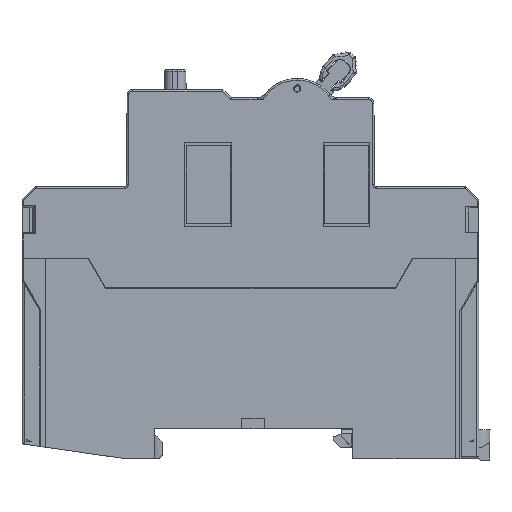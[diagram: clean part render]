
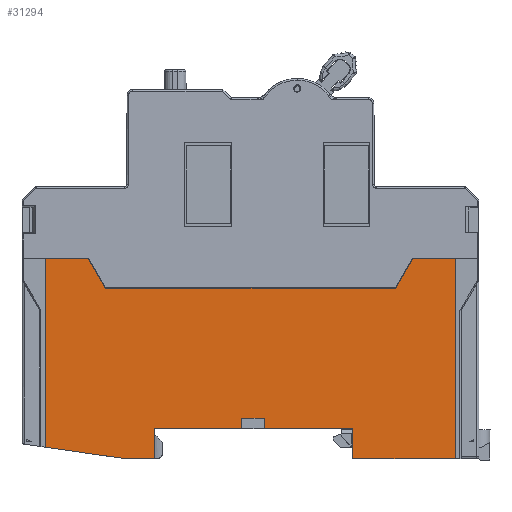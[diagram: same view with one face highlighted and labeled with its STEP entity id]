
A CAD part, left-side view. The second image highlights one B-rep face of the part: STEP entity #31294.
In plain terms, the highlighted planar face has unit normal (-1, 0, -0.003).
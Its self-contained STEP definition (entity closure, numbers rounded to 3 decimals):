
#430 = VERTEX_POINT ( 'NONE', #25608 ) ;
#446 = CARTESIAN_POINT ( 'NONE',  ( -17.81, 37.2, -3.351 ) ) ;
#522 = DIRECTION ( 'NONE',  ( 0., -1., 0. ) ) ;
#702 = DIRECTION ( 'NONE',  ( 0.003, 0., -1. ) ) ;
#803 = EDGE_CURVE ( 'NONE', #1604, #30242, #3737, .T. ) ;
#1604 = VERTEX_POINT ( 'NONE', #27402 ) ;
#1630 = DIRECTION ( 'NONE',  ( 0., 1., 0. ) ) ;
#2237 = DIRECTION ( 'NONE',  ( 0., -1., 0. ) ) ;
#2311 = ORIENTED_EDGE ( 'NONE', *, *, #10362, .T. ) ;
#2698 = VERTEX_POINT ( 'NONE', #446 ) ;
#2858 = LINE ( 'NONE', #34061, #27433 ) ;
#3737 = LINE ( 'NONE', #6586, #10572 ) ;
#3806 = DIRECTION ( 'NONE',  ( -0.003, 0.005, 1. ) ) ;
#3987 = DIRECTION ( 'NONE',  ( 0., -0.99, -0.142 ) ) ;
#4095 = ORIENTED_EDGE ( 'NONE', *, *, #31018, .T. ) ;
#4277 = VECTOR ( 'NONE', #40005, 1000. ) ;
#4990 = EDGE_CURVE ( 'NONE', #34829, #6757, #17106, .T. ) ;
#5139 = CARTESIAN_POINT ( 'NONE',  ( -17.805, -18.578, -5.4 ) ) ;
#5221 = LINE ( 'NONE', #23220, #29796 ) ;
#5395 = LINE ( 'NONE', #29439, #23168 ) ;
#5665 = VERTEX_POINT ( 'NONE', #36476 ) ;
#5940 = VERTEX_POINT ( 'NONE', #38209 ) ;
#6196 = ORIENTED_EDGE ( 'NONE', *, *, #42351, .T. ) ;
#6586 = CARTESIAN_POINT ( 'NONE',  ( -17.824, -2.5, 1.881 ) ) ;
#6709 = DIRECTION ( 'NONE',  ( 0., 1., 0. ) ) ;
#6757 = VERTEX_POINT ( 'NONE', #15889 ) ;
#7190 = CARTESIAN_POINT ( 'NONE',  ( -17.805, 22.95, -5.4 ) ) ;
#7204 = FACE_OUTER_BOUND ( 'NONE', #27370, .T. ) ;
#7260 = PLANE ( 'NONE',  #9123 ) ;
#7347 = VECTOR ( 'NONE', #39514, 1000. ) ;
#7767 = LINE ( 'NONE', #32516, #25530 ) ;
#7898 = LINE ( 'NONE', #33646, #42231 ) ;
#8456 = DIRECTION ( 'NONE',  ( 0.002, 0.5, -0.866 ) ) ;
#8607 = ORIENTED_EDGE ( 'NONE', *, *, #21251, .T. ) ;
#9008 = VERTEX_POINT ( 'NONE', #30888 ) ;
#9123 = AXIS2_PLACEMENT_3D ( 'NONE', #27281, #20669, #702 ) ;
#9462 = DIRECTION ( 'NONE',  ( 0.002, -0.5, -0.866 ) ) ;
#9763 = EDGE_CURVE ( 'NONE', #30258, #9008, #27358, .T. ) ;
#9834 = CARTESIAN_POINT ( 'NONE',  ( -17.9, 29.5, 31. ) ) ;
#10309 = CARTESIAN_POINT ( 'NONE',  ( -17.824, -2.5, 1.89 ) ) ;
#10362 = EDGE_CURVE ( 'NONE', #6757, #2698, #30918, .T. ) ;
#10474 = VERTEX_POINT ( 'NONE', #37069 ) ;
#10535 = VECTOR ( 'NONE', #11445, 1000. ) ;
#10572 = VECTOR ( 'NONE', #3806, 1000. ) ;
#11173 = EDGE_CURVE ( 'NONE', #30242, #26102, #19391, .T. ) ;
#11404 = ORIENTED_EDGE ( 'NONE', *, *, #4990, .T. ) ;
#11445 = DIRECTION ( 'NONE',  ( 0., 1., 0. ) ) ;
#11682 = DIRECTION ( 'NONE',  ( 0.003, 0.005, -1. ) ) ;
#11844 = ORIENTED_EDGE ( 'NONE', *, *, #33530, .F. ) ;
#13515 = CARTESIAN_POINT ( 'NONE',  ( -17.805, -37.2, -5.4 ) ) ;
#15049 = EDGE_CURVE ( 'NONE', #23777, #17072, #38023, .T. ) ;
#15504 = VECTOR ( 'NONE', #26516, 1000. ) ;
#15889 = CARTESIAN_POINT ( 'NONE',  ( -17.9, 37.2, 31. ) ) ;
#16289 = CARTESIAN_POINT ( 'NONE',  ( -17.819, -37.2, -0.047 ) ) ;
#16505 = EDGE_CURVE ( 'NONE', #1604, #430, #30107, .T. ) ;
#16822 = ORIENTED_EDGE ( 'NONE', *, *, #803, .F. ) ;
#17072 = VERTEX_POINT ( 'NONE', #38054 ) ;
#17106 = LINE ( 'NONE', #24044, #33745 ) ;
#18013 = LINE ( 'NONE', #32639, #25824 ) ;
#19046 = CARTESIAN_POINT ( 'NONE',  ( -17.824, 1.6, 1.89 ) ) ;
#19391 = LINE ( 'NONE', #19046, #10535 ) ;
#19541 = EDGE_CURVE ( 'NONE', #430, #23318, #31489, .T. ) ;
#19634 = CARTESIAN_POINT ( 'NONE',  ( -17.901, -18.386, 31.304 ) ) ;
#19801 = CARTESIAN_POINT ( 'NONE',  ( -17.9, 17.45, 31. ) ) ;
#20275 = ORIENTED_EDGE ( 'NONE', *, *, #19541, .T. ) ;
#20299 = VECTOR ( 'NONE', #1630, 1000. ) ;
#20669 = DIRECTION ( 'NONE',  ( -1., 0., -0.003 ) ) ;
#20755 = ORIENTED_EDGE ( 'NONE', *, *, #22320, .T. ) ;
#21251 = EDGE_CURVE ( 'NONE', #36916, #10474, #5221, .T. ) ;
#22005 = CARTESIAN_POINT ( 'NONE',  ( -17.886, -26.325, 25.5 ) ) ;
#22320 = EDGE_CURVE ( 'NONE', #2698, #30258, #2858, .T. ) ;
#22576 = EDGE_CURVE ( 'NONE', #5665, #5940, #18013, .T. ) ;
#22601 = VECTOR ( 'NONE', #33042, 1000. ) ;
#22895 = EDGE_CURVE ( 'NONE', #34829, #17072, #5395, .T. ) ;
#23168 = VECTOR ( 'NONE', #9462, 1000. ) ;
#23220 = CARTESIAN_POINT ( 'NONE',  ( -17.9, 39.65, 31. ) ) ;
#23318 = VERTEX_POINT ( 'NONE', #5139 ) ;
#23711 = ORIENTED_EDGE ( 'NONE', *, *, #16505, .T. ) ;
#23777 = VERTEX_POINT ( 'NONE', #22005 ) ;
#24044 = CARTESIAN_POINT ( 'NONE',  ( -17.9, 39.65, 31. ) ) ;
#24085 = LINE ( 'NONE', #16289, #7347 ) ;
#24346 = LINE ( 'NONE', #19801, #15504 ) ;
#24923 = EDGE_CURVE ( 'NONE', #36916, #27096, #24085, .T. ) ;
#25306 = DIRECTION ( 'NONE',  ( 0., -1., 0. ) ) ;
#25530 = VECTOR ( 'NONE', #8456, 1000. ) ;
#25608 = CARTESIAN_POINT ( 'NONE',  ( -17.819, -18.55, 0. ) ) ;
#25649 = DIRECTION ( 'NONE',  ( 0., -1., 0. ) ) ;
#25824 = VECTOR ( 'NONE', #25649, 1000. ) ;
#26102 = VERTEX_POINT ( 'NONE', #26274 ) ;
#26274 = CARTESIAN_POINT ( 'NONE',  ( -17.824, 1.6, 1.89 ) ) ;
#26516 = DIRECTION ( 'NONE',  ( -0.003, 0., 1. ) ) ;
#27096 = VERTEX_POINT ( 'NONE', #13515 ) ;
#27281 = CARTESIAN_POINT ( 'NONE',  ( -17.9, 39.65, 31. ) ) ;
#27358 = LINE ( 'NONE', #28100, #42868 ) ;
#27370 = EDGE_LOOP ( 'NONE', ( #36817, #29489, #8607, #4095, #30948, #42210, #11404, #2311, #20755, #37245, #6196, #30551, #11844, #27446, #16822, #23711, #20275 ) ) ;
#27402 = CARTESIAN_POINT ( 'NONE',  ( -17.819, -2.51, 0. ) ) ;
#27433 = VECTOR ( 'NONE', #3987, 1000. ) ;
#27446 = ORIENTED_EDGE ( 'NONE', *, *, #11173, .F. ) ;
#28100 = CARTESIAN_POINT ( 'NONE',  ( -17.805, 39.65, -5.4 ) ) ;
#29084 = VECTOR ( 'NONE', #25306, 1000. ) ;
#29249 = CARTESIAN_POINT ( 'NONE',  ( -17.819, 39.65, 0. ) ) ;
#29439 = CARTESIAN_POINT ( 'NONE',  ( -17.806, 8.7, -5.026 ) ) ;
#29489 = ORIENTED_EDGE ( 'NONE', *, *, #24923, .F. ) ;
#29796 = VECTOR ( 'NONE', #6709, 1000. ) ;
#30107 = LINE ( 'NONE', #29249, #29084 ) ;
#30242 = VERTEX_POINT ( 'NONE', #10309 ) ;
#30258 = VERTEX_POINT ( 'NONE', #7190 ) ;
#30551 = ORIENTED_EDGE ( 'NONE', *, *, #22576, .T. ) ;
#30888 = CARTESIAN_POINT ( 'NONE',  ( -17.805, 17.45, -5.4 ) ) ;
#30918 = LINE ( 'NONE', #40394, #4277 ) ;
#30948 = ORIENTED_EDGE ( 'NONE', *, *, #15049, .T. ) ;
#31018 = EDGE_CURVE ( 'NONE', #10474, #23777, #7767, .T. ) ;
#31294 = ADVANCED_FACE ( 'NONE', ( #7204 ), #7260, .T. ) ;
#31489 = LINE ( 'NONE', #19634, #22601 ) ;
#32516 = CARTESIAN_POINT ( 'NONE',  ( -17.806, -8.701, -5.026 ) ) ;
#32639 = CARTESIAN_POINT ( 'NONE',  ( -17.819, 39.65, 0. ) ) ;
#33042 = DIRECTION ( 'NONE',  ( 0.003, -0.005, -1. ) ) ;
#33530 = EDGE_CURVE ( 'NONE', #26102, #5940, #41897, .T. ) ;
#33646 = CARTESIAN_POINT ( 'NONE',  ( -17.805, 39.65, -5.4 ) ) ;
#33745 = VECTOR ( 'NONE', #43018, 1000. ) ;
#34061 = CARTESIAN_POINT ( 'NONE',  ( -17.813, 44.44, -2.31 ) ) ;
#34829 = VERTEX_POINT ( 'NONE', #9834 ) ;
#34984 = CARTESIAN_POINT ( 'NONE',  ( -17.824, 1.6, 1.881 ) ) ;
#35291 = CARTESIAN_POINT ( 'NONE',  ( -17.886, 0., 25.5 ) ) ;
#36476 = CARTESIAN_POINT ( 'NONE',  ( -17.819, 17.45, 0. ) ) ;
#36817 = ORIENTED_EDGE ( 'NONE', *, *, #40479, .T. ) ;
#36916 = VERTEX_POINT ( 'NONE', #43052 ) ;
#37069 = CARTESIAN_POINT ( 'NONE',  ( -17.9, -29.501, 31. ) ) ;
#37245 = ORIENTED_EDGE ( 'NONE', *, *, #9763, .T. ) ;
#38023 = LINE ( 'NONE', #35291, #20299 ) ;
#38054 = CARTESIAN_POINT ( 'NONE',  ( -17.886, 26.325, 25.5 ) ) ;
#38209 = CARTESIAN_POINT ( 'NONE',  ( -17.819, 1.61, 0. ) ) ;
#39514 = DIRECTION ( 'NONE',  ( 0.003, 0., -1. ) ) ;
#39835 = VECTOR ( 'NONE', #11682, 1000. ) ;
#40005 = DIRECTION ( 'NONE',  ( 0.003, 0., -1. ) ) ;
#40394 = CARTESIAN_POINT ( 'NONE',  ( -17.9, 37.2, 31. ) ) ;
#40479 = EDGE_CURVE ( 'NONE', #23318, #27096, #7898, .T. ) ;
#41897 = LINE ( 'NONE', #34984, #39835 ) ;
#42210 = ORIENTED_EDGE ( 'NONE', *, *, #22895, .F. ) ;
#42231 = VECTOR ( 'NONE', #522, 1000. ) ;
#42351 = EDGE_CURVE ( 'NONE', #9008, #5665, #24346, .T. ) ;
#42868 = VECTOR ( 'NONE', #2237, 1000. ) ;
#43018 = DIRECTION ( 'NONE',  ( 0., 1., 0. ) ) ;
#43052 = CARTESIAN_POINT ( 'NONE',  ( -17.9, -37.2, 31. ) ) ;
